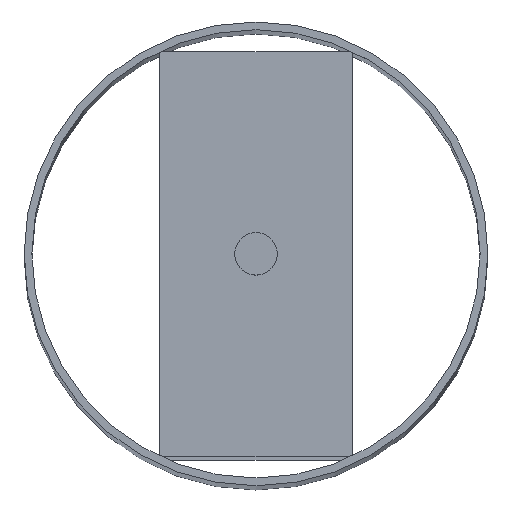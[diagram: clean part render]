
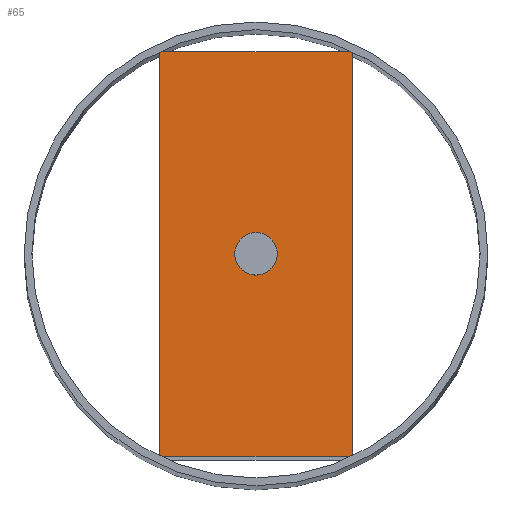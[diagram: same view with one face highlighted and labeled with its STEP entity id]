
A CAD part, top view. The second image highlights one B-rep face of the part: STEP entity #65.
In plain terms, the highlighted planar face has unit normal (0, 0, 1).
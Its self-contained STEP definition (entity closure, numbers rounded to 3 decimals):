
#65 = ADVANCED_FACE( '', ( #146, #147 ), #148, .T. );
#146 = FACE_BOUND( '', #235, .T. );
#147 = FACE_OUTER_BOUND( '', #236, .T. );
#148 = PLANE( '', #237 );
#235 = EDGE_LOOP( '', ( #377 ) );
#236 = EDGE_LOOP( '', ( #378, #379, #380, #381, #382, #383, #384, #385 ) );
#237 = AXIS2_PLACEMENT_3D( '', #386, #387, #388 );
#377 = ORIENTED_EDGE( '', *, *, #534, .T. );
#378 = ORIENTED_EDGE( '', *, *, #531, .T. );
#379 = ORIENTED_EDGE( '', *, *, #529, .T. );
#380 = ORIENTED_EDGE( '', *, *, #535, .T. );
#381 = ORIENTED_EDGE( '', *, *, #525, .T. );
#382 = ORIENTED_EDGE( '', *, *, #536, .T. );
#383 = ORIENTED_EDGE( '', *, *, #521, .T. );
#384 = ORIENTED_EDGE( '', *, *, #498, .T. );
#385 = ORIENTED_EDGE( '', *, *, #518, .T. );
#386 = CARTESIAN_POINT( '', ( 0., 0., 307. ) );
#387 = DIRECTION( '', ( 0., 0., 1. ) );
#388 = DIRECTION( '', ( 1., 0., 0. ) );
#498 = EDGE_CURVE( '', #593, #594, #595, .T. );
#518 = EDGE_CURVE( '', #594, #623, #625, .T. );
#521 = EDGE_CURVE( '', #627, #593, #630, .T. );
#525 = EDGE_CURVE( '', #632, #636, #638, .T. );
#529 = EDGE_CURVE( '', #640, #644, #646, .T. );
#531 = EDGE_CURVE( '', #623, #640, #648, .T. );
#534 = EDGE_CURVE( '', #651, #651, #652, .F. );
#535 = EDGE_CURVE( '', #644, #632, #653, .T. );
#536 = EDGE_CURVE( '', #636, #627, #654, .T. );
#593 = VERTEX_POINT( '', #726 );
#594 = VERTEX_POINT( '', #727 );
#595 = LINE( '', #728, #729 );
#623 = VERTEX_POINT( '', #762 );
#625 = CIRCLE( '', #765, 58. );
#627 = VERTEX_POINT( '', #767 );
#630 = CIRCLE( '', #771, 58. );
#632 = VERTEX_POINT( '', #773 );
#636 = VERTEX_POINT( '', #778 );
#638 = CIRCLE( '', #781, 58. );
#640 = VERTEX_POINT( '', #783 );
#644 = VERTEX_POINT( '', #788 );
#646 = CIRCLE( '', #791, 58. );
#648 = LINE( '', #793, #794 );
#651 = VERTEX_POINT( '', #798 );
#652 = CIRCLE( '', #799, 5.5 );
#653 = LINE( '', #800, #801 );
#654 = LINE( '', #802, #803 );
#726 = CARTESIAN_POINT( '', ( -24.97, -52.35, 307. ) );
#727 = CARTESIAN_POINT( '', ( 24.97, -52.35, 307. ) );
#728 = CARTESIAN_POINT( '', ( -25., -52.35, 307. ) );
#729 = VECTOR( '', #852, 1000. );
#762 = CARTESIAN_POINT( '', ( 25., -52.335, 307. ) );
#765 = AXIS2_PLACEMENT_3D( '', #892, #893, #894 );
#767 = CARTESIAN_POINT( '', ( -25., -52.335, 307. ) );
#771 = AXIS2_PLACEMENT_3D( '', #899, #900, #901 );
#773 = CARTESIAN_POINT( '', ( -24.97, 52.35, 307. ) );
#778 = CARTESIAN_POINT( '', ( -25., 52.335, 307. ) );
#781 = AXIS2_PLACEMENT_3D( '', #907, #908, #909 );
#783 = CARTESIAN_POINT( '', ( 25., 52.335, 307. ) );
#788 = CARTESIAN_POINT( '', ( 24.97, 52.35, 307. ) );
#791 = AXIS2_PLACEMENT_3D( '', #915, #916, #917 );
#793 = CARTESIAN_POINT( '', ( 25., -52.35, 307. ) );
#794 = VECTOR( '', #918, 1000. );
#798 = CARTESIAN_POINT( '', ( 5.5, 0., 307. ) );
#799 = AXIS2_PLACEMENT_3D( '', #920, #921, #922 );
#800 = CARTESIAN_POINT( '', ( 25., 52.35, 307. ) );
#801 = VECTOR( '', #923, 1000. );
#802 = CARTESIAN_POINT( '', ( -25., 52.35, 307. ) );
#803 = VECTOR( '', #924, 1000. );
#852 = DIRECTION( '', ( 1., 0., 0. ) );
#892 = CARTESIAN_POINT( '', ( 0., 0., 307. ) );
#893 = DIRECTION( '', ( 0., 0., 1. ) );
#894 = DIRECTION( '', ( 1., 0., 0. ) );
#899 = CARTESIAN_POINT( '', ( 0., 0., 307. ) );
#900 = DIRECTION( '', ( 0., 0., 1. ) );
#901 = DIRECTION( '', ( 1., 0., 0. ) );
#907 = CARTESIAN_POINT( '', ( 0., 0., 307. ) );
#908 = DIRECTION( '', ( 0., 0., 1. ) );
#909 = DIRECTION( '', ( 1., 0., 0. ) );
#915 = CARTESIAN_POINT( '', ( 0., 0., 307. ) );
#916 = DIRECTION( '', ( 0., 0., 1. ) );
#917 = DIRECTION( '', ( 1., 0., 0. ) );
#918 = DIRECTION( '', ( 0., 1., 0. ) );
#920 = CARTESIAN_POINT( '', ( 0., 0., 307. ) );
#921 = DIRECTION( '', ( 0., 0., 1. ) );
#922 = DIRECTION( '', ( 1., 0., 0. ) );
#923 = DIRECTION( '', ( -1., 0., 0. ) );
#924 = DIRECTION( '', ( 0., -1., 0. ) );
